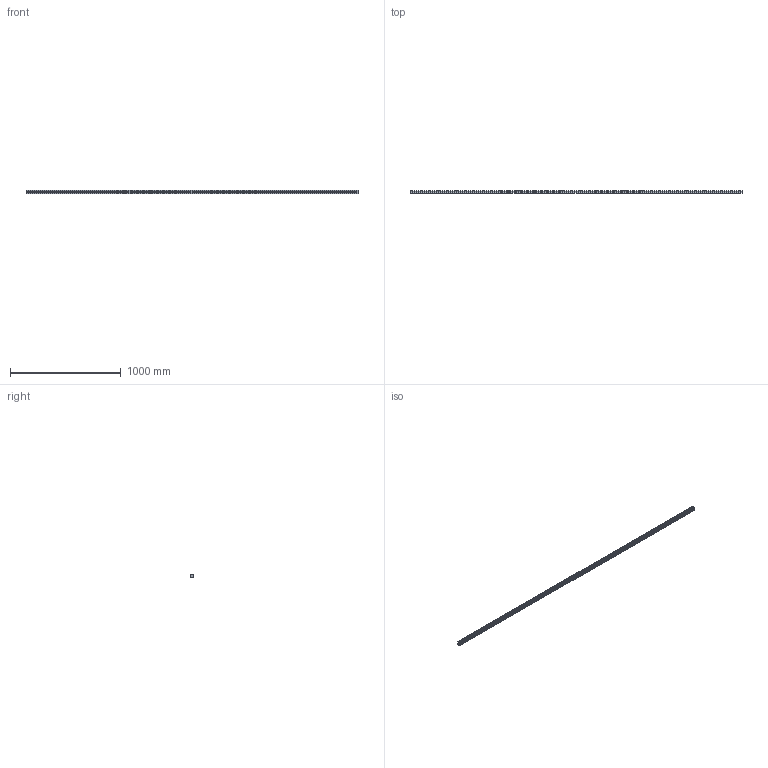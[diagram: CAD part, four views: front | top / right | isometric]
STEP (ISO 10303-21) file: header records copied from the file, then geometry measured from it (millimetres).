
FILE_DESCRIPTION(/* description */ ('STEP AP214'),/* implementation_level */ '2;1');
FILE_NAME(/* name */ 'SHS35-3000L(GK) RAIL(20)',/* time_stamp */ '2023-06-01T08:27:35+02:00',/* author */ ('License CC BY-ND 4.0'),/* organization */ ('CADENAS'),/* preprocessor_version */ 'ST-DEVELOPER v19.3',/* originating_system */ 'PARTsolutions',/* authorisation */ ' ');
FILE_SCHEMA (('AUTOMOTIVE_DESIGN {1 0 10303 214 3 1 1}'));
Length unit declared in the file: millimetre
Products named in the file (1): SHS35-3000L(GK) RAIL(20)
Bounding box: 3000 x 26 x 34 mm (x, y, z)
Volume: 2282628.5 mm3; surface area: 398157.9 mm2
Topology: 1 solids, 1 shells, 350 faces, 1044 edges, 696 vertices
Faces by surface type: plane 176, cylinder 174
Full cylindrical faces by diameter (mm): 9 x38, 14 x38
Entity records: 11582 total; most frequent: CARTESIAN_POINT 2395, DIRECTION 1942, ORIENTED_EDGE 1860, EDGE_CURVE 930, AXIS2_PLACEMENT_3D 813, VERTEX_POINT 658, EDGE_LOOP 502, FACE_BOUND 502
